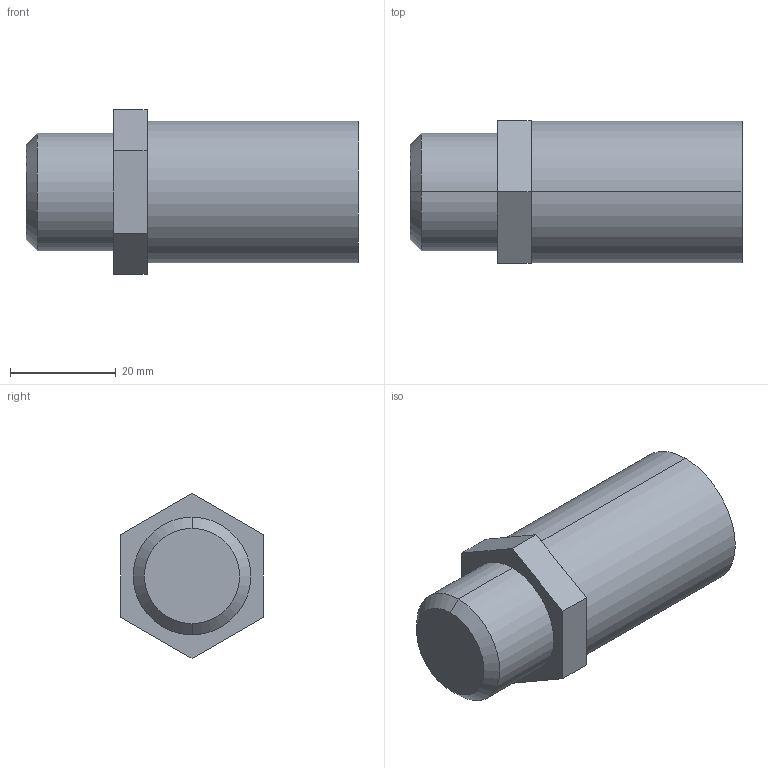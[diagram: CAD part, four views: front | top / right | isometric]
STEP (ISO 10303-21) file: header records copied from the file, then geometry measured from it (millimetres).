
FILE_DESCRIPTION (( 'STEP AP214' ), '1' );
FILE_NAME ('Fitting Weldable 12.STEP', '2012-09-26T22:11:54', ( '' ), ( '' ), 'SwSTEP 2.0', 'SolidWorks 2012', '' );
FILE_SCHEMA (( 'AUTOMOTIVE_DESIGN' ));
Length unit declared in the file: inch
Products named in the file (1): Fitting Weldable 12
Bounding box: 62.76 x 27 x 31.18 mm (x, y, z)
Volume: 32767.8 mm3; surface area: 6275.9 mm2
Topology: 1 solids, 1 shells, 16 faces, 34 edges, 22 vertices
Faces by surface type: plane 10, cylinder 4, cone 2
Entity records: 511 total; most frequent: DIRECTION 78, CARTESIAN_POINT 73, ORIENTED_EDGE 68, EDGE_CURVE 34, AXIS2_PLACEMENT_3D 27, LINE 24, VECTOR 24, VERTEX_POINT 22
